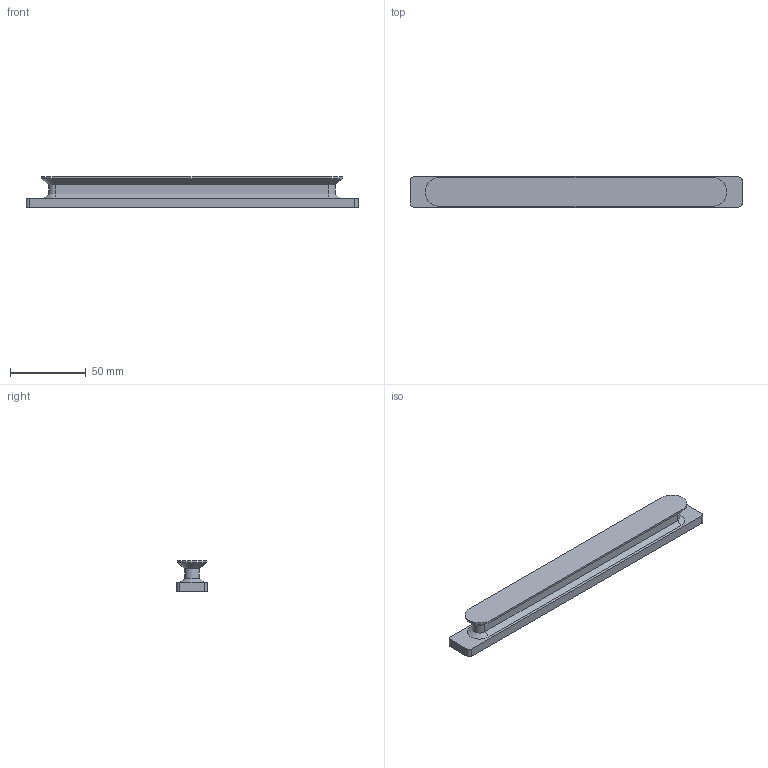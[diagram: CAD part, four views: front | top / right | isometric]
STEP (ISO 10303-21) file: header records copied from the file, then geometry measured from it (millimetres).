
FILE_DESCRIPTION(/* description */ (''),/* implementation_level */ '2;1');
FILE_NAME(/* name */ 'W:\Technik\Konstruktion\CAD-Daten\Vakuumsauger\9_\9.200x20.063\9.200x20.063_Kd neu.stp',/* time_stamp */ '2017-08-31T10:16:18+02:00',/* author */ ('DFloßmann'),/* organization */ (''),/* preprocessor_version */ 'ST-DEVELOPER v16.5',/* originating_system */ 'Autodesk Inventor 2017',/* authorisation */ '');
FILE_SCHEMA (('AUTOMOTIVE_DESIGN { 1 0 10303 214 3 1 1 }'));
Length unit declared in the file: millimetre
Products named in the file (3): 9.200x20.063_Kd; 9.200x20.063
Assembly tree (2 placements, depth 2):
  9.200x20.063_Kd
    9.200x20.063
    9.200x20.063_Kd
Bounding box: 219.8 x 19.9 x 20.1 mm (x, y, z)
Volume: 59689.8 mm3; surface area: 25906.1 mm2
Topology: 2 solids, 2 shells, 33 faces, 70 edges, 42 vertices
Faces by surface type: plane 17, cylinder 10, cone 6
Full cylindrical faces by diameter (mm): 3.6 x1, 4 x1
Entity records: 936 total; most frequent: DIRECTION 164, CARTESIAN_POINT 144, ORIENTED_EDGE 130, EDGE_CURVE 65, AXIS2_PLACEMENT_3D 61, LINE 42, VECTOR 42, VERTEX_POINT 41
